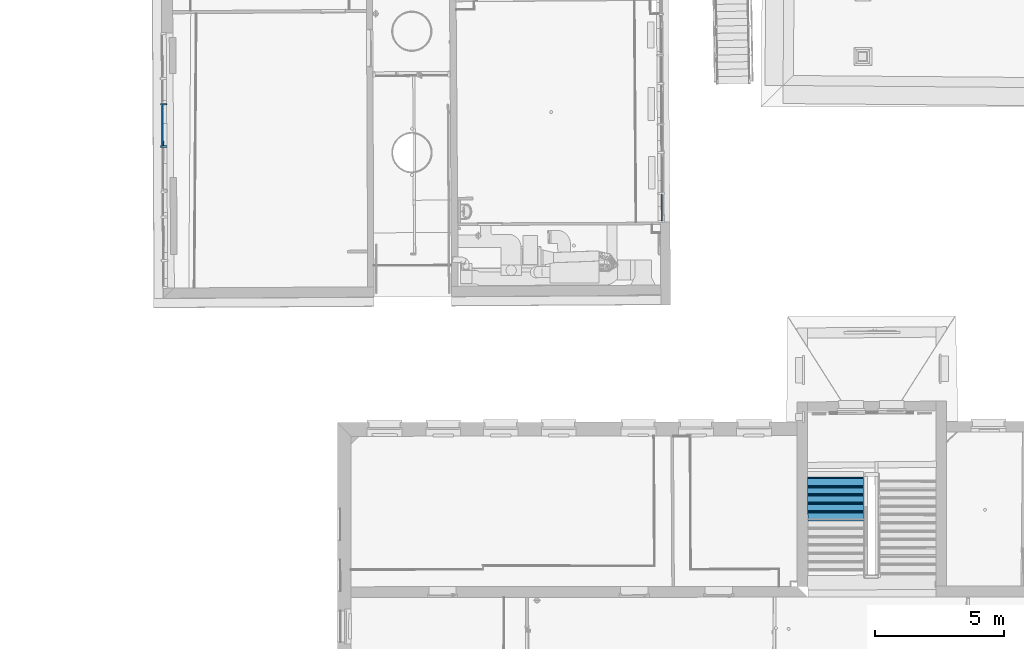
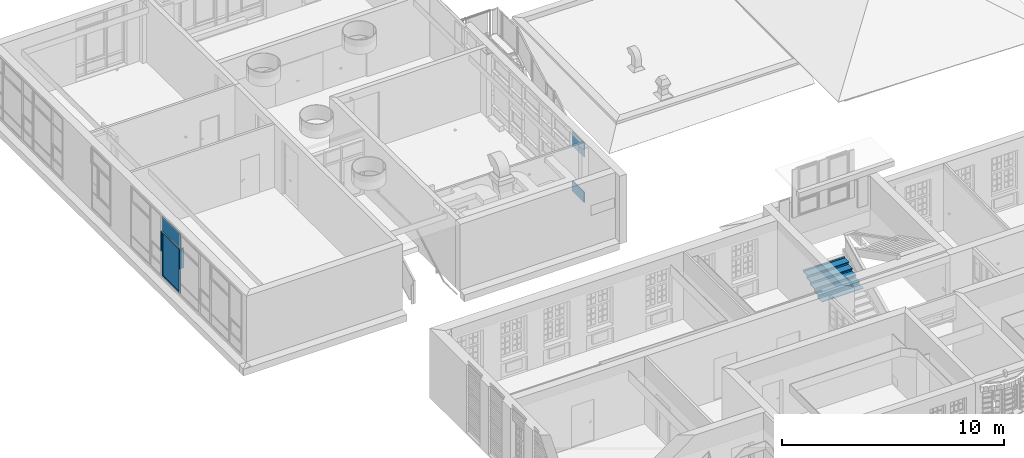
# One storey, part 93 of 158: 17 building element parts, 3 elements without a shape of their own.
"""IFC2X3 building model written with IfcOpenShell, lengths in metres."""

from ifc_helpers import new_model, entity, si_unit, converted_unit, derived_unit, money_unit, direction, frame, origin_with_axes, place, context, subcontext, project, spatial, faceted_brep, material, type_object, element, aggregate, save


model = new_model("IFC2X3")

# Units and contexts
model_context = context("Model", 3, precision=1e-05, world=origin_with_axes(), true_north=direction((0.0, 1.0)))
body_context = subcontext(model_context, "Body", "Model", "MODEL_VIEW")
ifc_project = project(units=[si_unit("LENGTHUNIT", "METRE"), si_unit("AREAUNIT", "SQUARE_METRE"), si_unit("VOLUMEUNIT", "CUBIC_METRE"), converted_unit("PLANEANGLEUNIT", "DEGREE", entity("IfcPlaneAngleMeasure", 0.0174532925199), si_unit("PLANEANGLEUNIT", "RADIAN"), dimensions=[0, 0, 0, 0, 0, 0, 0]), money_unit("EUR"), converted_unit("TIMEUNIT", "Year", entity("IfcTimeMeasure", 31556926.0), si_unit("TIMEUNIT", "SECOND"), dimensions=[0, 0, 1, 0, 0, 0, 0]), si_unit("MASSUNIT", "GRAM", prefix="KILO"), si_unit("THERMODYNAMICTEMPERATUREUNIT", "DEGREE_CELSIUS"), si_unit("LUMINOUSINTENSITYUNIT", "LUMEN"), si_unit("ENERGYUNIT", "JOULE", prefix="MEGA"), derived_unit("THERMALCONDUCTANCEUNIT", [(si_unit("POWERUNIT", "WATT"), 1), (si_unit("LENGTHUNIT", "METRE"), -1), (si_unit("THERMODYNAMICTEMPERATUREUNIT", "KELVIN"), -1)]), derived_unit("SPECIFICHEATCAPACITYUNIT", [(si_unit("ENERGYUNIT", "JOULE"), 1), (si_unit("MASSUNIT", "GRAM", prefix="KILO"), -1), (si_unit("THERMODYNAMICTEMPERATUREUNIT", "KELVIN"), -1)]), derived_unit("MASSDENSITYUNIT", [(si_unit("MASSUNIT", "GRAM", prefix="KILO"), 1), (si_unit("VOLUMEUNIT", "CUBIC_METRE"), -1)])], contexts=[model_context])

# Site, building, storey
site_placement = place(None, origin_with_axes())
site = spatial("IfcSite", under=ifc_project, at=site_placement, Name="Gelände", CompositionType="ELEMENT")
building_placement = place(site_placement, origin_with_axes())
building = spatial("IfcBuilding", under=site, at=building_placement, Name="Gebäude", CompositionType="ELEMENT")
storey_placement = place(building_placement, origin_with_axes())
storey = spatial("IfcBuildingStorey", under=building, at=storey_placement, Name="ERDGESCHOSS", CompositionType="ELEMENT", Elevation=0.0)

# Proxy, building element parts
building_element_proxy_type = type_object("IfcBuildingElementProxyType", Name="Fassadentyp", PredefinedType="NOTDEFINED")
proxy_1_placement = place(storey_placement, frame((-15.5457352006, 40.9565245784, 1.34043905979), z_axis=(0.0, 0.0, 1.0), x_axis=(1.0, 0.0, 0.0)))
proxy_1 = element("IfcBuildingElementProxy", 1, at=proxy_1_placement, inside=storey, type_object=building_element_proxy_type, Name="Fassade-002")
ifc_material_1 = material(Name="45_Glas, Normalglas")
building_element_part_1_placement = place(proxy_1_placement, origin_with_axes())
building_element_part_1 = element("IfcBuildingElementPart", 2, at=building_element_part_1_placement, material=ifc_material_1, Name="45_Glas, Normalglas", context=body_context, shape_type="Brep", body=[
    faceted_brep([(0.0354261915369, -7.12329229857, 3.31499988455), (0.0754249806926, -7.12298106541, 3.31499988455), (0.0709637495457, -6.54963648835, 3.31499988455), (0.0309649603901, -6.54994772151, 3.31499988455), (0.0354261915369, -7.12329229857, 2.5299999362), (0.0754249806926, -7.12298106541, 2.5299999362), (0.0709637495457, -6.54963648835, 2.5299999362), (0.0671777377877, -6.06306916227, 2.5299999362), (0.0671777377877, -6.06306916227, 3.31499988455), (0.027178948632, -6.06338039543, 3.31499988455), (0.027178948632, -6.06338039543, 2.5299999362), (0.0309649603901, -6.54994772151, 2.5299999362)], [[[0, 1, 2, 3]], [[4, 5, 1, 0]], [[1, 5, 6, 7, 8, 2]], [[3, 2, 8, 9]], [[0, 3, 9, 10, 11, 4]], [[11, 6, 5, 4]], [[10, 7, 6, 11]], [[9, 8, 7, 10]]]),
])
building_element_part_2_placement = place(proxy_1_placement, origin_with_axes())
building_element_part_2 = element("IfcBuildingElementPart", 3, at=building_element_part_2_placement, material=ifc_material_1, Name="45_Glas, Normalglas", context=body_context, shape_type="Brep", body=[
    faceted_brep([(0.0354261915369, -7.12329229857, 0.609999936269), (0.0754249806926, -7.12298106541, 0.609999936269), (0.0709637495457, -6.54963648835, 0.609999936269), (0.0309649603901, -6.54994772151, 0.609999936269), (0.0354261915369, -7.12329229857, 0.0350000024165), (0.0754249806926, -7.12298106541, 0.0350000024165), (0.0709637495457, -6.54963648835, 0.0350000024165), (0.0671777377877, -6.06306916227, 0.0350000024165), (0.0671777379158, -6.06306917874, 0.609999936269), (0.0271789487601, -6.0633804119, 0.609999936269), (0.027178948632, -6.06338039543, 0.0350000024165), (0.0309649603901, -6.54994772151, 0.0350000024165)], [[[0, 1, 2, 3]], [[4, 5, 1, 0]], [[1, 5, 6, 7, 8, 2]], [[3, 2, 8, 9]], [[0, 3, 9, 10, 11, 4]], [[11, 6, 5, 4]], [[10, 7, 6, 11]], [[9, 8, 7, 10]]]),
])
aggregate(proxy_1, [building_element_part_1, building_element_part_2])

proxy_2_placement = place(storey_placement, frame((-34.8120286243, 34.4012060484, 1.3404389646), z_axis=(0.0, 0.0, 1.0), x_axis=(1.0, 0.0, 0.0)))
proxy_2 = element("IfcBuildingElementProxy", 4, at=proxy_2_placement, inside=storey, type_object=building_element_proxy_type, Name="Fassade-002")
ifc_material_2 = material(Name="53_Metall, Aluminium")
building_element_part_3_placement = place(proxy_2_placement, origin_with_axes())
building_element_part_3 = element("IfcBuildingElementPart", 5, at=building_element_part_3_placement, material=ifc_material_2, Name="53_Metall, Aluminium", context=body_context, shape_type="Brep", body=[
    faceted_brep([(-0.0530970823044, 3.93815421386, 0.0500000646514), (-0.0437980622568, 2.35259494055, 0.0500000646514), (-0.0487979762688, 2.35256561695, 0.0500000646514), (-0.0580969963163, 3.93812489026, 0.0500000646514), (-0.0528331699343, 3.89315498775, 0.0950000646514), (-0.0440619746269, 2.39759416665, 0.0950000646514), (-0.0490618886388, 2.39756484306, 0.0950000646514), (-0.0578330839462, 3.89312566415, 0.0950000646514)], [[[0, 1, 2, 3]], [[0, 4, 5, 1]], [[1, 5, 6, 2]], [[3, 2, 6, 7]], [[4, 0, 3, 7]], [[5, 4, 7, 6]]]),
    faceted_brep([(-0.0437980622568, 2.35259494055, 0.0500000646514), (-0.0437980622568, 2.35259494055, 2.49500009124), (-0.0487979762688, 2.35256561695, 2.49500009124), (-0.0487979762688, 2.35256561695, 0.0500000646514), (-0.0440619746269, 2.39759416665, 0.0950000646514), (-0.0440619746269, 2.39759416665, 2.45000009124), (-0.0490618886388, 2.39756484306, 2.45000009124), (-0.0490618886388, 2.39756484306, 0.0950000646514)], [[[0, 1, 2, 3]], [[0, 4, 5, 1]], [[1, 5, 6, 2]], [[3, 2, 6, 7]], [[4, 0, 3, 7]], [[5, 4, 7, 6]]]),
    faceted_brep([(-0.0530970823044, 3.93815421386, 2.49500009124), (-0.0528331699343, 3.89315498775, 2.45000009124), (-0.0578330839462, 3.89312566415, 2.45000009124), (-0.0580969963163, 3.93812489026, 2.49500009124), (-0.0437980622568, 2.35259494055, 2.49500009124), (-0.0440619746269, 2.39759416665, 2.45000009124), (-0.0490618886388, 2.39756484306, 2.45000009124), (-0.0487979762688, 2.35256561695, 2.49500009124)], [[[0, 1, 2, 3]], [[0, 4, 5, 1]], [[1, 5, 6, 2]], [[3, 2, 6, 7]], [[4, 0, 3, 7]], [[5, 4, 7, 6]]]),
    faceted_brep([(-0.0530970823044, 3.93815421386, 0.0500000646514), (-0.0528331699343, 3.89315498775, 0.0950000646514), (-0.0578330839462, 3.89312566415, 0.0950000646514), (-0.0580969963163, 3.93812489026, 0.0500000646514), (-0.0530970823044, 3.93815421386, 2.49500009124), (-0.0528331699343, 3.89315498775, 2.45000009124), (-0.0578330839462, 3.89312566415, 2.45000009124), (-0.0580969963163, 3.93812489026, 2.49500009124)], [[[0, 1, 2, 3]], [[0, 4, 5, 1]], [[1, 5, 6, 2]], [[3, 2, 6, 7]], [[4, 0, 3, 7]], [[5, 4, 7, 6]]]),
    faceted_brep([(-0.00309794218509, 3.93844744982, 0.0500000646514), (0.00620107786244, 2.35288817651, 0.0500000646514), (-0.0437980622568, 2.35259494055, 0.0500000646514), (-0.0530970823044, 3.93815421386, 0.0500000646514), (-0.00298064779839, 3.91844779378, 0.0700000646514), (0.00608378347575, 2.37288783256, 0.0700000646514), (-0.0439153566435, 2.3725945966, 0.0700000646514), (-0.0529797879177, 3.91815455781, 0.0700000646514)], [[[0, 1, 2, 3]], [[0, 4, 5, 1]], [[1, 5, 6, 2]], [[3, 2, 6, 7]], [[4, 0, 3, 7]], [[5, 4, 7, 6]]]),
    faceted_brep([(0.00620107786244, 2.35288817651, 0.0500000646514), (0.00620107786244, 2.35288817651, 2.49500009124), (-0.0437980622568, 2.35259494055, 2.49500009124), (-0.0437980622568, 2.35259494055, 0.0500000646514), (0.00608378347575, 2.37288783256, 0.0700000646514), (0.00608378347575, 2.37288783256, 2.47500009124), (-0.0439153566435, 2.3725945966, 2.47500009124), (-0.0439153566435, 2.3725945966, 0.0700000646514)], [[[0, 1, 2, 3]], [[0, 4, 5, 1]], [[1, 5, 6, 2]], [[3, 2, 6, 7]], [[4, 0, 3, 7]], [[5, 4, 7, 6]]]),
    faceted_brep([(-0.00309794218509, 3.93844744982, 2.49500009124), (-0.00298064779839, 3.91844779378, 2.47500009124), (-0.0529797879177, 3.91815455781, 2.47500009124), (-0.0530970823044, 3.93815421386, 2.49500009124), (0.00620107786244, 2.35288817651, 2.49500009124), (0.00608378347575, 2.37288783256, 2.47500009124), (-0.0439153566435, 2.3725945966, 2.47500009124), (-0.0437980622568, 2.35259494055, 2.49500009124)], [[[0, 1, 2, 3]], [[0, 4, 5, 1]], [[1, 5, 6, 2]], [[3, 2, 6, 7]], [[4, 0, 3, 7]], [[5, 4, 7, 6]]]),
    faceted_brep([(-0.00309794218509, 3.93844744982, 0.0500000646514), (-0.00298064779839, 3.91844779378, 0.0700000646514), (-0.0529797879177, 3.91815455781, 0.0700000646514), (-0.0530970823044, 3.93815421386, 0.0500000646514), (-0.00309794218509, 3.93844744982, 2.49500009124), (-0.00298064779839, 3.91844779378, 2.47500009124), (-0.0529797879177, 3.91815455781, 2.47500009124), (-0.0530970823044, 3.93815421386, 2.49500009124)], [[[0, 1, 2, 3]], [[0, 4, 5, 1]], [[1, 5, 6, 2]], [[3, 2, 6, 7]], [[4, 0, 3, 7]], [[5, 4, 7, 6]]]),
    faceted_brep([(-0.00318591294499, 3.95344718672, 0.0350000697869), (0.00628904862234, 2.33788843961, 0.0350000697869), (-0.0337102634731, 2.33765385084, 0.0350000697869), (-0.0431852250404, 3.95321259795, 0.0350000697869), (-0.00309794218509, 3.93844744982, 0.0500000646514), (0.00620107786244, 2.35288817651, 0.0500000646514), (-0.033798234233, 2.35265358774, 0.0500000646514), (-0.0430972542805, 3.93821286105, 0.0500000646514)], [[[0, 1, 2, 3]], [[0, 4, 5, 1]], [[1, 5, 6, 2]], [[3, 2, 6, 7]], [[4, 0, 3, 7]], [[5, 4, 7, 6]]]),
    faceted_brep([(0.00628904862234, 2.33788843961, 0.0350000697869), (0.00628904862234, 2.33788843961, 2.5100000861), (-0.0337102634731, 2.33765385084, 2.5100000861), (-0.0337102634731, 2.33765385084, 0.0350000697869), (0.00620107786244, 2.35288817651, 0.0500000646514), (0.00620107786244, 2.35288817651, 2.49500009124), (-0.033798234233, 2.35265358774, 2.49500009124), (-0.033798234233, 2.35265358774, 0.0500000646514)], [[[0, 1, 2, 3]], [[0, 4, 5, 1]], [[1, 5, 6, 2]], [[3, 2, 6, 7]], [[4, 0, 3, 7]], [[5, 4, 7, 6]]]),
    faceted_brep([(0.00628904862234, 2.33788843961, 2.5100000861), (-0.00318591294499, 3.95344718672, 2.5100000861), (-0.0431852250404, 3.95321259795, 2.5100000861), (-0.0337102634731, 2.33765385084, 2.5100000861), (0.00620107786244, 2.35288817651, 2.49500009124), (-0.00309794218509, 3.93844744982, 2.49500009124), (-0.0430972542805, 3.93821286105, 2.49500009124), (-0.033798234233, 2.35265358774, 2.49500009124)], [[[0, 1, 2, 3]], [[0, 4, 5, 1]], [[1, 5, 6, 2]], [[3, 2, 6, 7]], [[4, 0, 3, 7]], [[5, 4, 7, 6]]]),
    faceted_brep([(-0.00318591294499, 3.95344718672, 2.5100000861), (-0.00318591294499, 3.95344718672, 0.0350000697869), (-0.0431852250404, 3.95321259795, 0.0350000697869), (-0.0431852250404, 3.95321259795, 2.5100000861), (-0.00309794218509, 3.93844744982, 2.49500009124), (-0.00309794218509, 3.93844744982, 0.0500000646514), (-0.0430972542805, 3.93821286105, 0.0500000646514), (-0.0430972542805, 3.93821286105, 2.49500009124)], [[[0, 1, 2, 3]], [[0, 4, 5, 1]], [[1, 5, 6, 2]], [[3, 2, 6, 7]], [[4, 0, 3, 7]], [[5, 4, 7, 6]]]),
    faceted_brep([(-0.0527158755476, 3.8731553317, 0.115000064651), (0.0022831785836, 3.87347789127, 0.115000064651), (0.0022831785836, 3.87347789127, 2.43000009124), (-0.0527158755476, 3.8731553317, 2.43000009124), (-0.0529797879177, 3.91815455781, 0.0700000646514), (0.00201926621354, 3.91847711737, 0.0700000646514), (0.00201926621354, 3.91847711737, 2.47500009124), (-0.0529797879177, 3.91815455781, 2.47500009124)], [[[0, 1, 2, 3]], [[4, 5, 1, 0]], [[1, 5, 6, 2]], [[3, 2, 6, 7]], [[0, 3, 7, 4]], [[7, 6, 5, 4]]]),
    faceted_brep([(-0.0439153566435, 2.3725945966, 0.0700000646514), (0.0110836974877, 2.37291715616, 0.0700000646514), (0.0110836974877, 2.37291715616, 2.47500009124), (-0.0439153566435, 2.3725945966, 2.47500009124), (-0.0441792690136, 2.4175938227, 0.115000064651), (0.0108197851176, 2.41791638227, 0.115000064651), (0.0108197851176, 2.41791638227, 2.43000009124), (-0.0441792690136, 2.4175938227, 2.43000009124)], [[[0, 1, 2, 3]], [[4, 5, 1, 0]], [[1, 5, 6, 2]], [[3, 2, 6, 7]], [[0, 3, 7, 4]], [[7, 6, 5, 4]]]),
    faceted_brep([(-0.0439153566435, 2.3725945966, 0.0700000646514), (0.0110836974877, 2.37291715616, 0.0700000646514), (0.0108197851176, 2.41791638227, 0.115000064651), (-0.0441792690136, 2.4175938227, 0.115000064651), (-0.0529797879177, 3.91815455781, 0.0700000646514), (0.00201926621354, 3.91847711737, 0.0700000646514), (0.0022831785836, 3.87347789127, 0.115000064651), (-0.0527158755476, 3.8731553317, 0.115000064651)], [[[0, 1, 2, 3]], [[4, 5, 1, 0]], [[1, 5, 6, 2]], [[3, 2, 6, 7]], [[0, 3, 7, 4]], [[7, 6, 5, 4]]]),
    faceted_brep([(-0.0529797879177, 3.91815455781, 2.47500009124), (0.00201926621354, 3.91847711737, 2.47500009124), (0.0022831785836, 3.87347789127, 2.43000009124), (-0.0527158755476, 3.8731553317, 2.43000009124), (-0.0439153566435, 2.3725945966, 2.47500009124), (0.0110836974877, 2.37291715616, 2.47500009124), (0.0108197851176, 2.41791638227, 2.43000009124), (-0.0441792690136, 2.4175938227, 2.43000009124)], [[[0, 1, 2, 3]], [[4, 5, 1, 0]], [[1, 5, 6, 2]], [[3, 2, 6, 7]], [[0, 3, 7, 4]], [[7, 6, 5, 4]]]),
])
building_element_part_4_placement = place(proxy_2_placement, origin_with_axes())
building_element_part_4 = element("IfcBuildingElementPart", 6, at=building_element_part_4_placement, material=ifc_material_1, Name="45_Glas, Normalglas", context=body_context, shape_type="Brep", body=[
    faceted_brep([(-0.0427160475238, 3.8732139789, 0.115000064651), (-0.0267163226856, 3.8733078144, 0.115000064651), (-0.0181797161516, 2.41774630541, 0.115000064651), (-0.0341794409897, 2.4176524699, 0.115000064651), (-0.0427160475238, 3.8732139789, 2.43000009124), (-0.0267163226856, 3.8733078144, 2.43000009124), (-0.0181797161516, 2.41774630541, 2.43000009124), (-0.0341794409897, 2.4176524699, 2.43000009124)], [[[0, 1, 2, 3]], [[4, 5, 1, 0]], [[1, 5, 6, 2]], [[3, 2, 6, 7]], [[0, 3, 7, 4]], [[7, 6, 5, 4]]]),
])
building_element_part_5_placement = place(proxy_2_placement, origin_with_axes())
building_element_part_5 = element("IfcBuildingElementPart", 7, at=building_element_part_5_placement, material=ifc_material_1, Name="45_Glas, Normalglas", context=body_context, shape_type="Brep", body=[
    faceted_brep([(0.00628904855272, 2.33788845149, 3.31499998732), (0.00116516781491, 3.21155218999, 3.31499998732), (-0.0388341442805, 3.21131760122, 3.31499998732), (-0.0337102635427, 2.33765386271, 3.31499998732), (0.00628904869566, 2.33788842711, 2.53000009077), (0.00116516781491, 3.21155218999, 2.53000009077), (-0.00318591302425, 3.95344720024, 2.53000009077), (-0.00318591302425, 3.95344720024, 3.31499998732), (-0.0431852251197, 3.95321261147, 3.31499998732), (-0.0431852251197, 3.95321261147, 2.53000009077), (-0.0388341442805, 3.21131760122, 2.53000009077), (-0.0337102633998, 2.33765383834, 2.53000009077)], [[[0, 1, 2, 3]], [[0, 4, 5, 6, 7, 1]], [[1, 7, 8, 2]], [[3, 2, 8, 9, 10, 11]], [[4, 0, 3, 11]], [[5, 4, 11, 10]], [[6, 5, 10, 9]], [[7, 6, 9, 8]]]),
])
building_element_part_6_placement = place(proxy_2_placement, origin_with_axes())
building_element_part_6 = element("IfcBuildingElementPart", 8, at=building_element_part_6_placement, material=ifc_material_2, Name="53_Metall, Aluminium", context=body_context, shape_type="Brep", body=[
    faceted_brep([(-0.0131857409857, 3.95338854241, 2.52000009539), (-0.0130977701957, 3.93838880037, 2.52000009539), (0.126899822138, 3.93920986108, 2.52000009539), (0.126606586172, 3.9892090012, 2.52000009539), (-0.0133910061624, 3.98838794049, 2.52000009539), (-0.0133030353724, 3.97338819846, 2.52000009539), (-0.0333026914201, 3.97327090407, 2.52000009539), (-0.0333906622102, 3.98827064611, 2.52000009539), (-0.108389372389, 3.98783079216, 2.52000009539), (-0.108096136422, 3.93783165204, 2.52000009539), (-0.0330974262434, 3.93827150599, 2.52000009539), (-0.0331853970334, 3.95327124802, 2.52000009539), (-0.0131857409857, 3.95338854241, 1.420000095), (-0.0130977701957, 3.93838880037, 1.420000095), (0.126899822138, 3.93920986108, 1.420000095), (0.126606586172, 3.9892090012, 1.420000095), (-0.0133910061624, 3.98838794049, 1.420000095), (-0.0133030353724, 3.97338819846, 1.420000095), (-0.0333026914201, 3.97327090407, 1.420000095), (-0.0333906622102, 3.98827064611, 1.420000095), (-0.108389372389, 3.98783079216, 1.420000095), (-0.108096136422, 3.93783165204, 1.420000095), (-0.0330974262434, 3.93827150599, 1.420000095), (-0.0331853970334, 3.95327124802, 1.420000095)], [[[0, 1, 2, 3, 4, 5, 6, 7, 8, 9, 10, 11]], [[1, 0, 12, 13]], [[1, 13, 14, 2]], [[3, 2, 14, 15]], [[4, 3, 15, 16]], [[4, 16, 17, 5]], [[5, 17, 18, 6]], [[7, 6, 18, 19]], [[19, 20, 8, 7]], [[9, 8, 20, 21]], [[22, 10, 9, 21]], [[11, 10, 22, 23]], [[0, 11, 23, 12]], [[23, 22, 21, 20, 19, 18, 17, 16, 15, 14, 13, 12]]]),
])
building_element_part_7_placement = place(proxy_2_placement, origin_with_axes())
building_element_part_7 = element("IfcBuildingElementPart", 9, at=building_element_part_7_placement, material=ifc_material_2, Name="53_Metall, Aluminium", context=body_context, shape_type="Brep", body=[
    faceted_brep([(-0.0035934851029, 2.31783015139, 2.52000009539), (-0.00350551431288, 2.30283040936, 2.52000009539), (0.136492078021, 2.30365147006, 2.52000009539), (0.136198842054, 2.35365061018, 2.52000009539), (-0.00379875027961, 2.35282954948, 2.52000009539), (-0.00371077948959, 2.33782980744, 2.52000009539), (-0.0237104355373, 2.33771251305, 2.52000009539), (-0.0237984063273, 2.35271225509, 2.52000009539), (-0.0987971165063, 2.35227240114, 2.52000009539), (-0.0985038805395, 2.30227326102, 2.52000009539), (-0.0235051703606, 2.30271311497, 2.52000009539), (-0.0235931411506, 2.317712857, 2.52000009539), (-0.0035934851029, 2.31783015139, 1.420000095), (-0.00350551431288, 2.30283040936, 1.420000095), (0.136492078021, 2.30365147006, 1.420000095), (0.136198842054, 2.35365061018, 1.420000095), (-0.00379875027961, 2.35282954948, 1.420000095), (-0.00371077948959, 2.33782980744, 1.420000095), (-0.0237104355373, 2.33771251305, 1.420000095), (-0.0237984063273, 2.35271225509, 1.420000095), (-0.0987971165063, 2.35227240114, 1.420000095), (-0.0985038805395, 2.30227326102, 1.420000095), (-0.0235051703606, 2.30271311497, 1.420000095), (-0.0235931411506, 2.317712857, 1.420000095)], [[[0, 1, 2, 3, 4, 5, 6, 7, 8, 9, 10, 11]], [[1, 0, 12, 13]], [[1, 13, 14, 2]], [[3, 2, 14, 15]], [[4, 3, 15, 16]], [[4, 16, 17, 5]], [[5, 17, 18, 6]], [[7, 6, 18, 19]], [[19, 20, 8, 7]], [[9, 8, 20, 21]], [[22, 10, 9, 21]], [[11, 10, 22, 23]], [[0, 11, 23, 12]], [[23, 22, 21, 20, 19, 18, 17, 16, 15, 14, 13, 12]]]),
])
aggregate(proxy_2, [building_element_part_3, building_element_part_4, building_element_part_5, building_element_part_6, building_element_part_7])

# Stair, building element parts
stair_placement = place(storey_placement, frame((-9.84157552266, 20.2697661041, -0.136081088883), z_axis=(0.0, 0.0, 1.0), x_axis=(0.999999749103, -0.000708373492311, 0.0)))
stair = element("IfcStair", 10, at=stair_placement, inside=storey, Name="Treppe-003", ShapeType="NOTDEFINED")
ifc_material_3 = material(Name="05_ALLGEMEIN - TRAGENDE BAUTEILE")
building_element_part_8_placement = place(stair_placement, origin_with_axes())
building_element_part_8 = element("IfcBuildingElementPart", 11, at=building_element_part_8_placement, material=ifc_material_3, Name="05_ALLGEMEIN - TRAGENDE BAUTEILE", context=body_context, shape_type="Brep", body=[
    faceted_brep([(2.15542489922, 2.31024462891, 1.13521396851), (2.15542489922, 2.31024462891, 1.25738739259), (-0.00185259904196, 2.3085133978, 1.25738739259), (-0.00185259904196, 2.3085133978, 1.13521396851), (2.15536250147, 2.35024459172, 1.25738739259), (2.15536250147, 2.35024459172, 1.13521396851), (-0.00188469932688, 2.34851338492, 1.25738739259), (-0.00188469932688, 2.34851338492, 1.13521396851)], [[[0, 1, 2, 3]], [[4, 1, 0, 5]], [[1, 4, 6, 2]], [[3, 2, 6, 7]], [[5, 0, 3, 7]], [[4, 5, 7, 6]]]),
])
building_element_part_9_placement = place(stair_placement, origin_with_axes())
building_element_part_9 = element("IfcBuildingElementPart", 12, at=building_element_part_9_placement, material=ifc_material_3, Name="05_ALLGEMEIN - TRAGENDE BAUTEILE", context=body_context, shape_type="Brep", body=[
    faceted_brep([(2.1549215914, 2.63288920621, 1.29738739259), (2.1549215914, 2.63288920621, 1.41956081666), (-0.00211152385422, 2.63115817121, 1.41956081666), (-0.00211152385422, 2.63115817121, 1.29738739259), (2.15485919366, 2.67288916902, 1.41956081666), (2.15485919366, 2.67288916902, 1.29738739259), (-0.00214362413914, 2.67115815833, 1.41956081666), (-0.00214362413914, 2.67115815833, 1.29738739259)], [[[0, 1, 2, 3]], [[4, 1, 0, 5]], [[1, 4, 6, 2]], [[3, 2, 6, 7]], [[5, 0, 3, 7]], [[4, 5, 7, 6]]]),
])
building_element_part_10_placement = place(stair_placement, origin_with_axes())
building_element_part_10 = element("IfcBuildingElementPart", 13, at=building_element_part_10_placement, material=ifc_material_3, Name="05_ALLGEMEIN - TRAGENDE BAUTEILE", context=body_context, shape_type="Brep", body=[
    faceted_brep([(2.15441828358, 2.9555337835, 1.45956081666), (2.15441828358, 2.9555337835, 1.58173424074), (-0.00237044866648, 2.95380294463, 1.58173424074), (-0.00237044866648, 2.95380294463, 1.45956081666), (2.15435588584, 2.99553374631, 1.58173424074), (2.15435588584, 2.99553374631, 1.45956081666), (-0.0024025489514, 2.99380293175, 1.58173424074), (-0.0024025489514, 2.99380293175, 1.45956081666)], [[[0, 1, 2, 3]], [[4, 1, 0, 5]], [[1, 4, 6, 2]], [[3, 2, 6, 7]], [[5, 0, 3, 7]], [[4, 5, 7, 6]]]),
])
building_element_part_11_placement = place(stair_placement, origin_with_axes())
building_element_part_11 = element("IfcBuildingElementPart", 14, at=building_element_part_11_placement, material=ifc_material_3, Name="05_ALLGEMEIN - TRAGENDE BAUTEILE", context=body_context, shape_type="Brep", body=[
    faceted_brep([(2.15391497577, 3.2781783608, 1.62173424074), (2.15391497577, 3.2781783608, 1.74390766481), (-0.00262937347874, 3.27644771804, 1.74390766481), (-0.00262937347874, 3.27644771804, 1.62173424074), (2.15385257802, 3.31817832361, 1.74390766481), (2.15385257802, 3.31817832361, 1.62173424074), (-0.00266147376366, 3.31644770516, 1.74390766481), (-0.00266147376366, 3.31644770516, 1.62173424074)], [[[0, 1, 2, 3]], [[4, 1, 0, 5]], [[1, 4, 6, 2]], [[3, 2, 6, 7]], [[5, 0, 3, 7]], [[4, 5, 7, 6]]]),
])
building_element_part_12_placement = place(stair_placement, origin_with_axes())
building_element_part_12 = element("IfcBuildingElementPart", 15, at=building_element_part_12_placement, material=ifc_material_3, Name="05_ALLGEMEIN - TRAGENDE BAUTEILE", context=body_context, shape_type="Brep", body=[
    faceted_brep([(2.15341166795, 3.60082293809, 1.78390766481), (2.15341166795, 3.60082293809, 1.84608111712), (-0.00288829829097, 3.59909249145, 1.84608108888), (-0.002888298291, 3.59909249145, 1.78390766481), (2.15334927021, 3.6408229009, 1.84608114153), (2.15334927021, 3.6408229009, 1.78390766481), (-0.00292039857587, 3.63909247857, 1.84608108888), (-0.00292039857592, 3.63909247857, 1.78390766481)], [[[0, 1, 2, 3]], [[4, 1, 0, 5]], [[1, 4, 6, 2]], [[3, 2, 6, 7]], [[5, 0, 3, 7]], [[4, 5, 7, 6]]]),
])
building_element_part_13_placement = place(stair_placement, origin_with_axes())
building_element_part_13 = element("IfcBuildingElementPart", 16, at=building_element_part_13_placement, material=ifc_material_3, Name="05_ALLGEMEIN - TRAGENDE BAUTEILE", context=body_context, shape_type="Brep", body=[
    faceted_brep([(2.15600620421, 1.93760009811, 1.09521396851), (2.15600620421, 1.93760009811, 1.13521396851), (-0.00155354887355, 1.93586864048, 1.13521396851), (-0.00155354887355, 1.93586864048, 1.09521396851), (2.15536250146, 2.35024459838, 1.13521396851), (2.15536250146, 2.35024459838, 1.09521396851), (-0.00188469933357, 2.34851339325, 1.13521396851), (-0.00188469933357, 2.34851339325, 1.09521396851)], [[[0, 1, 2, 3]], [[4, 1, 0, 5]], [[1, 4, 6, 2]], [[6, 7, 3, 2]], [[5, 0, 3, 7]], [[4, 5, 7, 6]]]),
])
building_element_part_14_placement = place(stair_placement, origin_with_axes())
building_element_part_14 = element("IfcBuildingElementPart", 17, at=building_element_part_14_placement, material=ifc_material_3, Name="05_ALLGEMEIN - TRAGENDE BAUTEILE", context=body_context, shape_type="Brep", body=[
    faceted_brep([(2.1555028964, 2.26024467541, 1.25738739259), (2.1555028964, 2.26024467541, 1.29738739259), (-0.00181247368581, 2.2585134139, 1.29738739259), (-0.00181247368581, 2.2585134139, 1.25738739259), (2.15485919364, 2.67288917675, 1.29738739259), (2.15485919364, 2.67288917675, 1.25738739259), (-0.00214362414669, 2.67115816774, 1.29738739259), (-0.00214362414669, 2.67115816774, 1.25738739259)], [[[0, 1, 2, 3]], [[4, 1, 0, 5]], [[1, 4, 6, 2]], [[6, 7, 3, 2]], [[5, 0, 3, 7]], [[4, 5, 7, 6]]]),
])
building_element_part_15_placement = place(stair_placement, origin_with_axes())
building_element_part_15 = element("IfcBuildingElementPart", 18, at=building_element_part_15_placement, material=ifc_material_3, Name="05_ALLGEMEIN - TRAGENDE BAUTEILE", context=body_context, shape_type="Brep", body=[
    faceted_brep([(2.15499958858, 2.5828892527, 1.41956081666), (2.15499958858, 2.5828892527, 1.45956081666), (-0.00207139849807, 2.58115818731, 1.45956081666), (-0.00207139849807, 2.58115818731, 1.41956081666), (2.15435588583, 2.99553375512, 1.45956081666), (2.15435588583, 2.99553375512, 1.41956081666), (-0.00240254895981, 2.99380294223, 1.45956081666), (-0.00240254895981, 2.99380294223, 1.41956081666)], [[[0, 1, 2, 3]], [[4, 1, 0, 5]], [[1, 4, 6, 2]], [[6, 7, 3, 2]], [[5, 0, 3, 7]], [[4, 5, 7, 6]]]),
])
building_element_part_16_placement = place(stair_placement, origin_with_axes())
building_element_part_16 = element("IfcBuildingElementPart", 19, at=building_element_part_16_placement, material=ifc_material_3, Name="05_ALLGEMEIN - TRAGENDE BAUTEILE", context=body_context, shape_type="Brep", body=[
    faceted_brep([(2.15449628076, 2.90553383, 1.58173424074), (2.15449628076, 2.90553383, 1.62173424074), (-0.00233032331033, 2.90380296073, 1.62173424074), (-0.00233032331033, 2.90380296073, 1.58173424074), (2.15385257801, 3.31817833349, 1.62173424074), (2.15385257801, 3.31817833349, 1.58173424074), (-0.00266147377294, 3.31644771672, 1.62173424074), (-0.00266147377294, 3.31644771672, 1.58173424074)], [[[0, 1, 2, 3]], [[4, 1, 0, 5]], [[1, 4, 6, 2]], [[6, 7, 3, 2]], [[5, 0, 3, 7]], [[4, 5, 7, 6]]]),
])
building_element_part_17_placement = place(stair_placement, origin_with_axes())
building_element_part_17 = element("IfcBuildingElementPart", 20, at=building_element_part_17_placement, material=ifc_material_3, Name="05_ALLGEMEIN - TRAGENDE BAUTEILE", context=body_context, shape_type="Brep", body=[
    faceted_brep([(2.15399297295, 3.22817840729, 1.74390766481), (2.15399297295, 3.22817840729, 1.78390766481), (-0.00258924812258, 3.22644773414, 1.78390766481), (-0.00258924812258, 3.22644773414, 1.74390766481), (2.15334927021, 3.6408229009, 1.78390766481), (2.15334927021, 3.6408229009, 1.74390766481), (-0.00292039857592, 3.63909247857, 1.78390766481), (-0.00284817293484, 3.54909250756, 1.78390766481), (-0.00284817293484, 3.54909250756, 1.74390766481), (-0.00292039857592, 3.63909247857, 1.74390766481)], [[[0, 1, 2, 3]], [[4, 1, 0, 5]], [[1, 4, 6, 7, 2]], [[7, 8, 3, 2]], [[5, 0, 3, 8, 9]], [[4, 5, 9, 6]], [[6, 9, 8, 7]]]),
])
aggregate(stair, [building_element_part_8, building_element_part_9, building_element_part_10, building_element_part_11, building_element_part_12, building_element_part_13, building_element_part_14, building_element_part_15, building_element_part_16, building_element_part_17])

save(model, "model.ifc")
